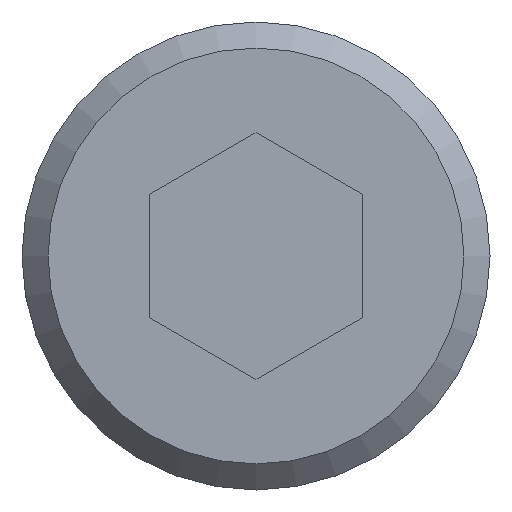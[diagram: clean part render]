
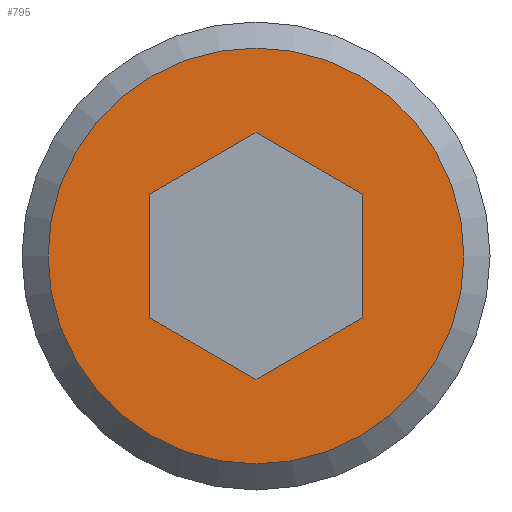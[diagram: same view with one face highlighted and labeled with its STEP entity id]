
A CAD part, front view. The second image highlights one B-rep face of the part: STEP entity #795.
In plain terms, the highlighted planar face has unit normal (0, -1, 0).
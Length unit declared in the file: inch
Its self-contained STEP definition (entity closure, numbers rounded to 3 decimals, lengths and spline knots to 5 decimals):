
#19=FACE_BOUND('',#161,.T.);
#70=CIRCLE('',#880,0.73);
#114=FACE_OUTER_BOUND('',#160,.T.);
#160=EDGE_LOOP('',(#685));
#161=EDGE_LOOP('',(#686,#687,#688,#689,#690,#691));
#222=LINE('',#1332,#276);
#226=LINE('',#1340,#280);
#229=LINE('',#1346,#283);
#232=LINE('',#1352,#286);
#235=LINE('',#1358,#289);
#238=LINE('',#1363,#292);
#276=VECTOR('',#975,0.3937);
#280=VECTOR('',#981,0.3937);
#283=VECTOR('',#986,0.3937);
#286=VECTOR('',#991,0.3937);
#289=VECTOR('',#996,0.3937);
#292=VECTOR('',#1001,0.3937);
#348=VERTEX_POINT('',#1330);
#349=VERTEX_POINT('',#1331);
#352=VERTEX_POINT('',#1339);
#354=VERTEX_POINT('',#1345);
#356=VERTEX_POINT('',#1351);
#358=VERTEX_POINT('',#1357);
#372=VERTEX_POINT('',#1685);
#437=EDGE_CURVE('',#348,#349,#222,.T.);
#441=EDGE_CURVE('',#352,#348,#226,.T.);
#444=EDGE_CURVE('',#354,#352,#229,.T.);
#447=EDGE_CURVE('',#356,#354,#232,.T.);
#450=EDGE_CURVE('',#358,#356,#235,.T.);
#453=EDGE_CURVE('',#349,#358,#238,.T.);
#483=EDGE_CURVE('',#372,#372,#70,.T.);
#685=ORIENTED_EDGE('',*,*,#483,.F.);
#686=ORIENTED_EDGE('',*,*,#437,.T.);
#687=ORIENTED_EDGE('',*,*,#453,.T.);
#688=ORIENTED_EDGE('',*,*,#450,.T.);
#689=ORIENTED_EDGE('',*,*,#447,.T.);
#690=ORIENTED_EDGE('',*,*,#444,.T.);
#691=ORIENTED_EDGE('',*,*,#441,.T.);
#756=PLANE('',#879);
#795=ADVANCED_FACE('',(#114,#19),#756,.T.);
#879=AXIS2_PLACEMENT_3D('',#1684,#1060,#1061);
#880=AXIS2_PLACEMENT_3D('',#1686,#1062,#1063);
#975=DIRECTION('',(0.866,0.,-0.5));
#981=DIRECTION('',(0.866,0.,0.5));
#986=DIRECTION('',(0.,0.,1.));
#991=DIRECTION('',(-0.866,0.,0.5));
#996=DIRECTION('',(-0.866,0.,-0.5));
#1001=DIRECTION('',(0.,0.,-1.));
#1060=DIRECTION('center_axis',(0.,-1.,0.));
#1061=DIRECTION('ref_axis',(0.,0.,-1.));
#1062=DIRECTION('center_axis',(0.,1.,0.));
#1063=DIRECTION('ref_axis',(0.,0.,1.));
#1330=CARTESIAN_POINT('',(0.,0.,0.43301));
#1331=CARTESIAN_POINT('',(0.375,0.,0.21651));
#1332=CARTESIAN_POINT('',(0.16108,0.,0.34001));
#1339=CARTESIAN_POINT('',(-0.375,0.,0.21651));
#1340=CARTESIAN_POINT('',(-0.34858,0.,0.23176));
#1345=CARTESIAN_POINT('',(-0.375,0.,-0.21651));
#1346=CARTESIAN_POINT('',(-0.375,0.,-0.26375));
#1351=CARTESIAN_POINT('',(0.,0.,-0.43301));
#1352=CARTESIAN_POINT('',(-0.02642,0.,-0.41776));
#1357=CARTESIAN_POINT('',(0.375,0.,-0.21651));
#1358=CARTESIAN_POINT('',(0.21392,0.,-0.30951));
#1363=CARTESIAN_POINT('',(0.375,0.,-0.04725));
#1684=CARTESIAN_POINT('Origin',(0.,0.,-0.311));
#1685=CARTESIAN_POINT('',(0.,0.,-0.73));
#1686=CARTESIAN_POINT('Origin',(0.,0.,0.));
